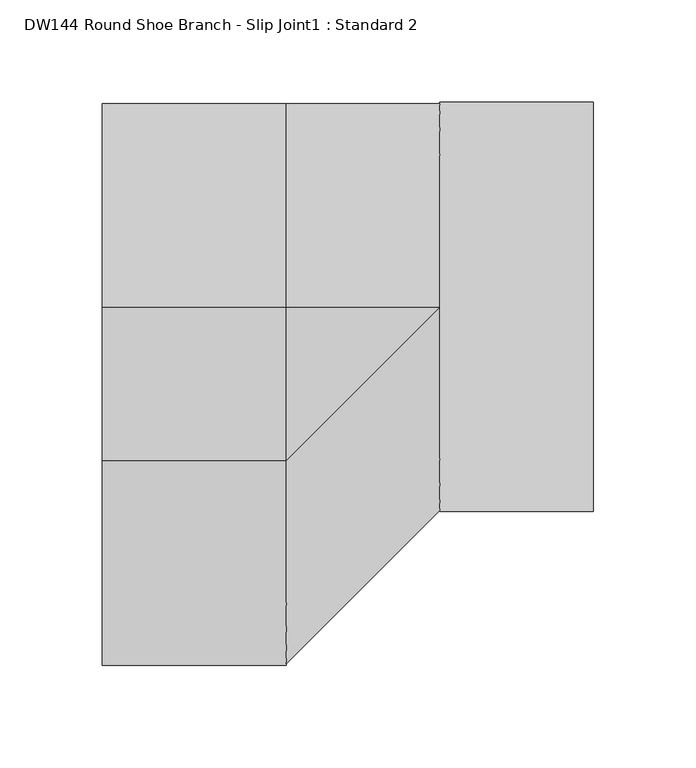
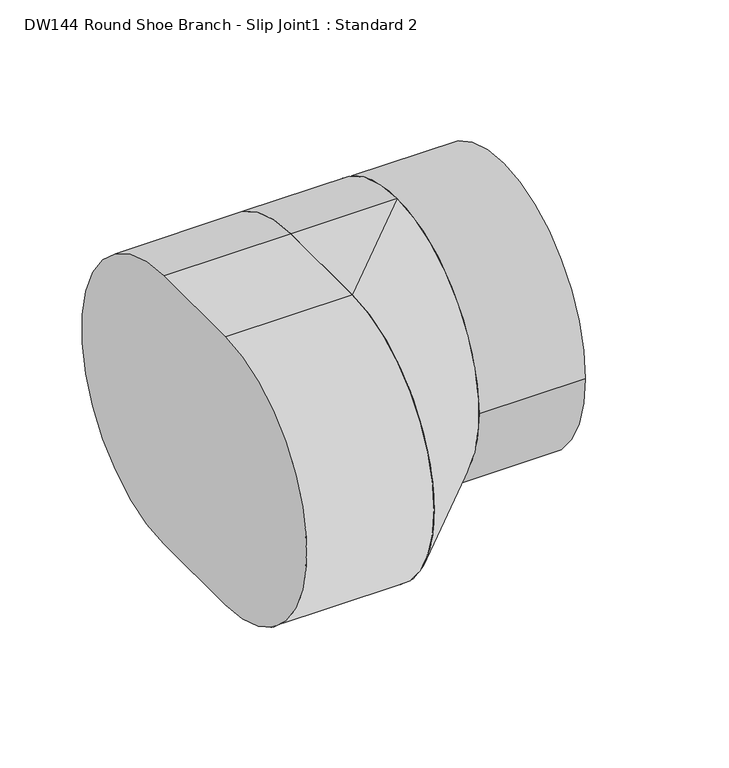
"""IFC4 building model written with IfcOpenShell, lengths in millimetres: duct fitting geometry, DW144 Round Shoe Branch - Slip Joint1 : Standard 2."""

from ifc_helpers import new_model, si_unit, point, frame, frame_2d, origin, origin_2d, place, context, project, spatial, polyline, circle_curve, trimmed, segment, composite_curve, outline, extrude, source, transform, mapped, element, save
from ifc_brep_helpers import plane_surface, cylinder_surface, extruded_surface, advanced_brep


def dw144_round_shoe_branch_slip_joint1_standard_2_3389bb33(model_context):
    return source(origin(), model_context, "Body", "SolidModel", [
        extrude(outline(composite_curve([segment(trimmed(circle_curve(origin_2d(), 100.0), [point((-100.0, 0.0))], [point((100.0, 0.0))], False, "CARTESIAN"), True, "CONTINUOUS"), segment(trimmed(circle_curve(origin_2d(), 100.0), [point((100.0, 0.0))], [point((-100.0, 0.0))], False, "CARTESIAN"), True, "CONTINUOUS")], self_intersect=False)), frame((75.0, 0.0, 0.0), z_axis=(1.0, 0.0, 0.0), x_axis=(0.0, 1.0, 0.0)), (0.0, 0.0, 1.0), 75.0),
        advanced_brep(
        [(75.0, 0.0, -100.0), (75.0, 0.0, 100.0), (0.0, 0.0, -100.0), (0.0, -75.0, -100.0), (0.0, -75.0, 100.0), (0.0, 0.0, 100.0)],
        [
            (0, 1, circle_curve(frame((75.0, 0.0, 0.0), z_axis=(1.0, 0.0, 0.0), x_axis=(0.0, 1.0, 0.0)), 100.0)),
            (1, 0, circle_curve(frame((75.0, 0.0, 0.0), z_axis=(1.0, 0.0, 0.0), x_axis=(0.0, 1.0, 0.0)), 100.0)),
            (2, 3),
            (3, 4, circle_curve(frame((0.0, -75.0, 0.0), z_axis=(-1.0, 0.0, 0.0), x_axis=(0.0, 1.0, 0.0)), 100.0)),
            (4, 5),
            (5, 2, circle_curve(frame((0.0, 0.0, 0.0), z_axis=(-1.0, 0.0, 0.0), x_axis=(0.0, 1.0, 0.0)), 100.0)),
            (5, 1),
            (0, 2),
            (4, 1),
            (3, 0),
        ],
        [
            plane_surface(frame((75.0, 0.0, 0.0), z_axis=(1.0, 0.0, 0.0), x_axis=(0.0, 1.0, 0.0))),
            plane_surface(frame((0.0, -37.5, 0.0), z_axis=(-1.0, 0.0, 0.0), x_axis=(0.0, 1.0, 0.0))),
            cylinder_surface(frame((0.0, 0.0, 0.0), z_axis=(1.0, 0.0, 0.0), x_axis=(0.0, 1.0, 0.0)), 100.0),
            plane_surface(frame((0.0, -37.5, 100.0), z_axis=(0.0, 0.0, 1.0), x_axis=(0.0, -1.0, 0.0))),
            extruded_surface(trimmed(circle_curve(frame((0.0, -75.0, 0.0), z_axis=(1.0, 0.0, 0.0), x_axis=(0.0, 1.0, 0.0)), 100.0), [point((0.0, -75.0, 100.0))], [point((0.0, -75.0, -100.0))], True, "CARTESIAN"), (75.0, 75.0, 0.0), 106.06601717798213),
            plane_surface(frame((0.0, -37.5, -100.0), z_axis=(0.0, 0.0, -1.0), x_axis=(0.0, 1.0, 0.0))),
        ],
        [
            (0, [[1, 2]]),
            (1, [[3, 4, 5, 6]]),
            (2, [[-6, 7, -1, 8]]),
            (3, [[-5, 9, -7]]),
            (4, [[-4, 10, -2, -9]]),
            (5, [[-3, -8, -10]]),
        ],
    ),
        extrude(outline(composite_curve([segment(polyline([(0.0, -100.0), (-75.0, -100.0)]), True, "CONTINUOUS"), segment(trimmed(circle_curve(frame_2d((-75.0, 0.0)), 100.0), [point((-75.0, -100.0))], [point((-75.0, 100.0))], False, "CARTESIAN"), True, "CONTINUOUS"), segment(polyline([(-75.0, 100.0), (0.0, 100.0)]), True, "CONTINUOUS"), segment(trimmed(circle_curve(origin_2d(), 100.0), [point((0.0, 100.0))], [point((0.0, -100.0))], False, "CARTESIAN"), True, "CONTINUOUS")], self_intersect=False)), frame((-89.7360445, 0.0, 0.0), z_axis=(1.0, 0.0, 0.0), x_axis=(0.0, 1.0, 0.0)), (0.0, 0.0, 1.0), 89.7360445),
    ])


if __name__ == "__main__":
    model = new_model("IFC4")
    model_context = context("Model", 3, world=origin())
    ifc_project = project(units=[si_unit("LENGTHUNIT", "METRE", prefix="MILLI")], contexts=[model_context])
    site = spatial("IfcSite", under=ifc_project)
    building = spatial("IfcBuilding", under=site)
    placement = place(None, origin())
    dw144_round_shoe_branch_slip_joint1_standard_2_shape = dw144_round_shoe_branch_slip_joint1_standard_2_3389bb33(model_context)
    element("IfcDuctFitting", 1, ObjectType="DW144 Round Shoe Branch - Slip Joint1 : Standard 2", at=placement, inside=building, context=model_context, shape_type="MappedRepresentation", body=[
        mapped(dw144_round_shoe_branch_slip_joint1_standard_2_shape, transform((0.0, 0.0, 0.0), x_axis=(1.0, 0.0, 0.0), y_axis=(0.0, 1.0, 0.0), z_axis=(0.0, 0.0, 1.0))),
    ])
    save(model, "model.ifc")
